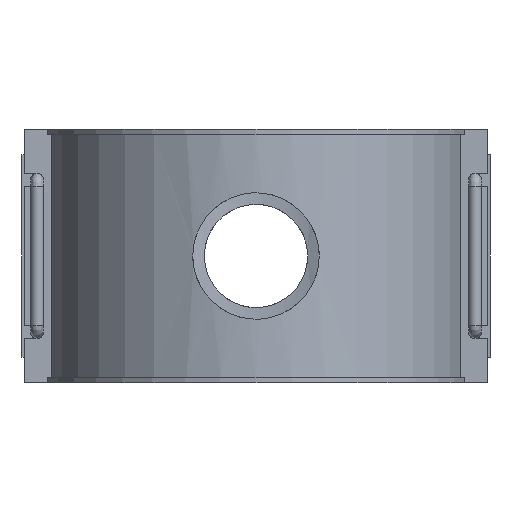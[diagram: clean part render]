
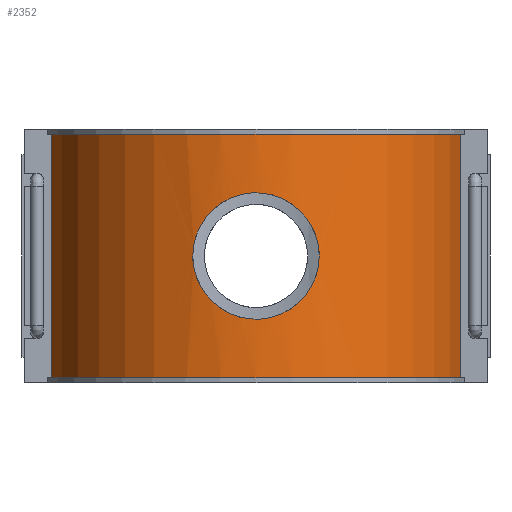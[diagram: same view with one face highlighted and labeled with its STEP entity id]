
A CAD part, front view. The second image highlights one B-rep face of the part: STEP entity #2352.
In plain terms, the highlighted cylindrical face has radius 97.462 mm (diameter 194.924 mm), a partial arc.
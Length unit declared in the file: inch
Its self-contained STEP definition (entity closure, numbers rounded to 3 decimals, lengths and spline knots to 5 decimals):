
#29=FACE_BOUND('',#335,.T.);
#142=B_SPLINE_CURVE_WITH_KNOTS('',3,(#3446,#3447,#3448,#3449,#3450,#3451,
#3452,#3453,#3454,#3455,#3456,#3457,#3458,#3459,#3460,#3461,#3462,#3463,
#3464,#3465,#3466,#3467,#3468,#3469,#3470,#3471,#3472,#3473,#3474,#3475,
#3476,#3477,#3478,#3479),.UNSPECIFIED.,.F.,.F.,(4,2,2,2,2,2,2,2,2,2,2,2,
2,2,2,2,4),(0.,0.55853,1.11705,1.67558,2.2341,
2.79246,3.35081,3.90917,4.46752,5.02587,
5.58423,6.14258,6.70094,7.25946,7.81799,
8.37652,8.93504),.UNSPECIFIED.);
#143=B_SPLINE_CURVE_WITH_KNOTS('',3,(#3480,#3481,#3482,#3483,#3484,#3485,
#3486,#3487,#3488,#3489,#3490,#3491,#3492,#3493,#3494,#3495,#3496,#3497,
#3498,#3499,#3500,#3501,#3502,#3503,#3504,#3505,#3506,#3507,#3508,#3509,
#3510,#3511,#3512,#3513),.UNSPECIFIED.,.F.,.F.,(4,2,2,2,2,2,2,2,2,2,2,2,
2,2,2,2,4),(8.93504,9.49357,10.05209,10.61062,
11.16914,11.7275,12.28585,12.84421,13.40256,
13.96092,14.51927,15.07762,15.63598,16.1945,
16.75303,17.31156,17.87008),.UNSPECIFIED.);
#194=FACE_OUTER_BOUND('',#334,.T.);
#334=EDGE_LOOP('',(#1734,#1735,#1736,#1737));
#335=EDGE_LOOP('',(#1738,#1739));
#478=CIRCLE('',#2510,3.83709);
#486=CIRCLE('',#2524,3.83709);
#571=LINE('',#3922,#805);
#606=LINE('',#4130,#840);
#805=VECTOR('',#2776,0.3937);
#840=VECTOR('',#2853,0.3937);
#1028=VERTEX_POINT('',#3443);
#1029=VERTEX_POINT('',#3445);
#1050=VERTEX_POINT('',#3907);
#1051=VERTEX_POINT('',#3909);
#1055=VERTEX_POINT('',#3921);
#1072=VERTEX_POINT('',#3964);
#1256=EDGE_CURVE('',#1029,#1028,#142,.T.);
#1257=EDGE_CURVE('',#1028,#1029,#143,.T.);
#1286=EDGE_CURVE('',#1050,#1051,#478,.T.);
#1291=EDGE_CURVE('',#1050,#1055,#571,.T.);
#1313=EDGE_CURVE('',#1072,#1055,#486,.T.);
#1348=EDGE_CURVE('',#1051,#1072,#606,.T.);
#1734=ORIENTED_EDGE('',*,*,#1286,.T.);
#1735=ORIENTED_EDGE('',*,*,#1348,.T.);
#1736=ORIENTED_EDGE('',*,*,#1313,.T.);
#1737=ORIENTED_EDGE('',*,*,#1291,.F.);
#1738=ORIENTED_EDGE('',*,*,#1256,.T.);
#1739=ORIENTED_EDGE('',*,*,#1257,.T.);
#2307=CYLINDRICAL_SURFACE('',#2534,3.83709);
#2352=ADVANCED_FACE('',(#194,#29),#2307,.T.);
#2510=AXIS2_PLACEMENT_3D('',#3911,#2766,#2767);
#2524=AXIS2_PLACEMENT_3D('',#3965,#2813,#2814);
#2534=AXIS2_PLACEMENT_3D('',#4131,#2854,#2855);
#2766=DIRECTION('center_axis',(0.,0.,1.));
#2767=DIRECTION('ref_axis',(1.,0.,0.));
#2776=DIRECTION('',(0.,0.,1.));
#2813=DIRECTION('center_axis',(0.,0.,-1.));
#2814=DIRECTION('ref_axis',(1.,0.,0.));
#2853=DIRECTION('',(0.,0.,1.));
#2854=DIRECTION('center_axis',(0.,0.,1.));
#2855=DIRECTION('ref_axis',(1.,0.,0.));
#3443=CARTESIAN_POINT('',(-1.15941,-3.65773,0.));
#3445=CARTESIAN_POINT('',(1.15941,-3.65773,0.));
#3446=CARTESIAN_POINT('Ctrl Pts',(1.15941,-3.65773,0.));
#3447=CARTESIAN_POINT('Ctrl Pts',(1.15941,-3.65773,-0.0733));
#3448=CARTESIAN_POINT('Ctrl Pts',(1.15235,-3.66,-0.14894));
#3449=CARTESIAN_POINT('Ctrl Pts',(1.12278,-3.66918,-0.2991));
#3450=CARTESIAN_POINT('Ctrl Pts',(1.10028,-3.67608,-0.37362));
#3451=CARTESIAN_POINT('Ctrl Pts',(1.04098,-3.69331,-0.5163));
#3452=CARTESIAN_POINT('Ctrl Pts',(1.00414,-3.70363,-0.58457));
#3453=CARTESIAN_POINT('Ctrl Pts',(0.91917,-3.72562,-0.71073));
#3454=CARTESIAN_POINT('Ctrl Pts',(0.87105,-3.73728,-0.76861));
#3455=CARTESIAN_POINT('Ctrl Pts',(0.76862,-3.75968,-0.87103));
#3456=CARTESIAN_POINT('Ctrl Pts',(0.71075,-3.77123,-0.91915));
#3457=CARTESIAN_POINT('Ctrl Pts',(0.58459,-3.79283,-1.00412));
#3458=CARTESIAN_POINT('Ctrl Pts',(0.5163,-3.80287,-1.04098));
#3459=CARTESIAN_POINT('Ctrl Pts',(0.3736,-3.81953,-1.10028));
#3460=CARTESIAN_POINT('Ctrl Pts',(0.29907,-3.82615,-1.12278));
#3461=CARTESIAN_POINT('Ctrl Pts',(0.14891,-3.83493,-1.15235));
#3462=CARTESIAN_POINT('Ctrl Pts',(0.07327,-3.83709,
-1.15941));
#3463=CARTESIAN_POINT('Ctrl Pts',(-0.07327,-3.83709,
-1.15941));
#3464=CARTESIAN_POINT('Ctrl Pts',(-0.14891,-3.83493,-1.15235));
#3465=CARTESIAN_POINT('Ctrl Pts',(-0.29907,-3.82615,-1.12278));
#3466=CARTESIAN_POINT('Ctrl Pts',(-0.3736,-3.81953,
-1.10028));
#3467=CARTESIAN_POINT('Ctrl Pts',(-0.5163,-3.80287,
-1.04098));
#3468=CARTESIAN_POINT('Ctrl Pts',(-0.58459,-3.79283,-1.00412));
#3469=CARTESIAN_POINT('Ctrl Pts',(-0.71075,-3.77123,
-0.91915));
#3470=CARTESIAN_POINT('Ctrl Pts',(-0.76862,-3.75968,
-0.87103));
#3471=CARTESIAN_POINT('Ctrl Pts',(-0.87105,-3.73728,
-0.76861));
#3472=CARTESIAN_POINT('Ctrl Pts',(-0.91917,-3.72562,-0.71073));
#3473=CARTESIAN_POINT('Ctrl Pts',(-1.00414,-3.70363,-0.58457));
#3474=CARTESIAN_POINT('Ctrl Pts',(-1.04098,-3.69331,-0.5163));
#3475=CARTESIAN_POINT('Ctrl Pts',(-1.10028,-3.67608,-0.37362));
#3476=CARTESIAN_POINT('Ctrl Pts',(-1.12278,-3.66918,-0.2991));
#3477=CARTESIAN_POINT('Ctrl Pts',(-1.15235,-3.66,-0.14894));
#3478=CARTESIAN_POINT('Ctrl Pts',(-1.15941,-3.65773,-0.0733));
#3479=CARTESIAN_POINT('Ctrl Pts',(-1.15941,-3.65773,0.));
#3480=CARTESIAN_POINT('Ctrl Pts',(-1.15941,-3.65773,0.));
#3481=CARTESIAN_POINT('Ctrl Pts',(-1.15941,-3.65773,0.0733));
#3482=CARTESIAN_POINT('Ctrl Pts',(-1.15235,-3.66,0.14894));
#3483=CARTESIAN_POINT('Ctrl Pts',(-1.12278,-3.66918,0.2991));
#3484=CARTESIAN_POINT('Ctrl Pts',(-1.10028,-3.67608,0.37362));
#3485=CARTESIAN_POINT('Ctrl Pts',(-1.04098,-3.69331,0.5163));
#3486=CARTESIAN_POINT('Ctrl Pts',(-1.00414,-3.70363,0.58457));
#3487=CARTESIAN_POINT('Ctrl Pts',(-0.91917,-3.72562,0.71073));
#3488=CARTESIAN_POINT('Ctrl Pts',(-0.87105,-3.73728,
0.76861));
#3489=CARTESIAN_POINT('Ctrl Pts',(-0.76862,-3.75968,
0.87103));
#3490=CARTESIAN_POINT('Ctrl Pts',(-0.71075,-3.77123,
0.91915));
#3491=CARTESIAN_POINT('Ctrl Pts',(-0.58459,-3.79283,
1.00412));
#3492=CARTESIAN_POINT('Ctrl Pts',(-0.5163,-3.80287,
1.04098));
#3493=CARTESIAN_POINT('Ctrl Pts',(-0.3736,-3.81953,
1.10028));
#3494=CARTESIAN_POINT('Ctrl Pts',(-0.29907,-3.82615,1.12278));
#3495=CARTESIAN_POINT('Ctrl Pts',(-0.14891,-3.83493,1.15235));
#3496=CARTESIAN_POINT('Ctrl Pts',(-0.07327,-3.83709,
1.15941));
#3497=CARTESIAN_POINT('Ctrl Pts',(0.07327,-3.83709,
1.15941));
#3498=CARTESIAN_POINT('Ctrl Pts',(0.14891,-3.83493,1.15235));
#3499=CARTESIAN_POINT('Ctrl Pts',(0.29907,-3.82615,1.12278));
#3500=CARTESIAN_POINT('Ctrl Pts',(0.3736,-3.81953,1.10028));
#3501=CARTESIAN_POINT('Ctrl Pts',(0.5163,-3.80287,1.04098));
#3502=CARTESIAN_POINT('Ctrl Pts',(0.58459,-3.79283,1.00412));
#3503=CARTESIAN_POINT('Ctrl Pts',(0.71075,-3.77123,0.91915));
#3504=CARTESIAN_POINT('Ctrl Pts',(0.76862,-3.75968,0.87103));
#3505=CARTESIAN_POINT('Ctrl Pts',(0.87105,-3.73728,0.76861));
#3506=CARTESIAN_POINT('Ctrl Pts',(0.91917,-3.72562,0.71073));
#3507=CARTESIAN_POINT('Ctrl Pts',(1.00414,-3.70363,0.58457));
#3508=CARTESIAN_POINT('Ctrl Pts',(1.04098,-3.69331,0.5163));
#3509=CARTESIAN_POINT('Ctrl Pts',(1.10028,-3.67608,0.37362));
#3510=CARTESIAN_POINT('Ctrl Pts',(1.12278,-3.66918,0.2991));
#3511=CARTESIAN_POINT('Ctrl Pts',(1.15235,-3.66,0.14894));
#3512=CARTESIAN_POINT('Ctrl Pts',(1.15941,-3.65773,0.0733));
#3513=CARTESIAN_POINT('Ctrl Pts',(1.15941,-3.65773,0.));
#3907=CARTESIAN_POINT('',(-3.74696,-0.82677,-2.232));
#3909=CARTESIAN_POINT('',(3.74696,-0.82677,-2.232));
#3911=CARTESIAN_POINT('Origin',(0.,0.,-2.232));
#3921=CARTESIAN_POINT('',(-3.74696,-0.82677,2.232));
#3922=CARTESIAN_POINT('',(-3.74696,-0.82677,0.));
#3964=CARTESIAN_POINT('',(3.74696,-0.82677,2.232));
#3965=CARTESIAN_POINT('Origin',(0.,0.,2.232));
#4130=CARTESIAN_POINT('',(3.74696,-0.82677,0.));
#4131=CARTESIAN_POINT('Origin',(0.,0.,0.));
